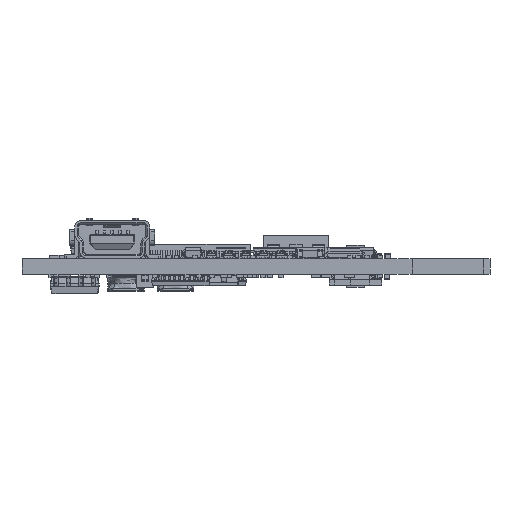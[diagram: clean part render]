
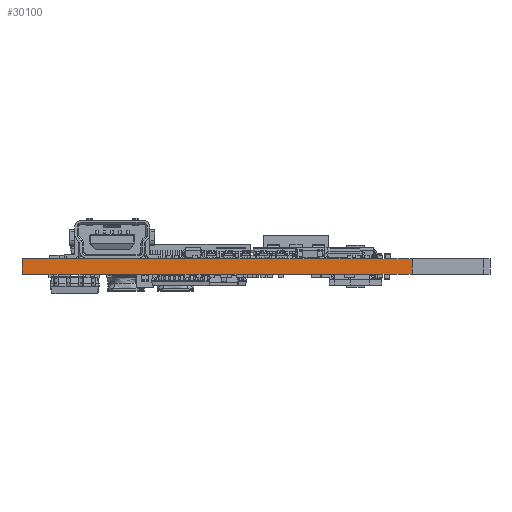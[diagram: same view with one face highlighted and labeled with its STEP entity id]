
A CAD part, left-side view. The second image highlights one B-rep face of the part: STEP entity #30100.
In plain terms, the highlighted planar face has unit normal (-1, 0, 0).
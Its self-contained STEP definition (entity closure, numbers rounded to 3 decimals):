
#7544 = LINE ( 'NONE', #72408, #69951 ) ;
#12661 = LINE ( 'NONE', #171715, #170813 ) ;
#14783 = DIRECTION ( 'NONE',  ( 0., -1., 0. ) ) ;
#15678 = DIRECTION ( 'NONE',  ( -1., 0., 0. ) ) ;
#16280 = DIRECTION ( 'NONE',  ( 0., 0., 1. ) ) ;
#17099 = LINE ( 'NONE', #173588, #41592 ) ;
#21142 = CARTESIAN_POINT ( 'NONE',  ( 0., 48., 0.8 ) ) ;
#25383 = ORIENTED_EDGE ( 'NONE', *, *, #173728, .F. ) ;
#30100 = ADVANCED_FACE ( 'NONE', ( #51219 ), #130863, .T. ) ;
#34679 = EDGE_CURVE ( 'NONE', #114125, #67115, #139008, .T. ) ;
#41592 = VECTOR ( 'NONE', #46458, 1000. ) ;
#46184 = ORIENTED_EDGE ( 'NONE', *, *, #34679, .F. ) ;
#46458 = DIRECTION ( 'NONE',  ( 0., 0., 1. ) ) ;
#50732 = EDGE_CURVE ( 'NONE', #107000, #67115, #7544, .T. ) ;
#51219 = FACE_OUTER_BOUND ( 'NONE', #122139, .T. ) ;
#62206 = ORIENTED_EDGE ( 'NONE', *, *, #50732, .T. ) ;
#67115 = VERTEX_POINT ( 'NONE', #91007 ) ;
#69951 = VECTOR ( 'NONE', #86735, 1000. ) ;
#72408 = CARTESIAN_POINT ( 'NONE',  ( 0., 8., -0.8 ) ) ;
#80985 = AXIS2_PLACEMENT_3D ( 'NONE', #117099, #15678, #16280 ) ;
#86735 = DIRECTION ( 'NONE',  ( 0., 0., 1. ) ) ;
#91007 = CARTESIAN_POINT ( 'NONE',  ( 0., 8., 0.8 ) ) ;
#107000 = VERTEX_POINT ( 'NONE', #169672 ) ;
#108909 = DIRECTION ( 'NONE',  ( 0., -1., 0. ) ) ;
#114125 = VERTEX_POINT ( 'NONE', #21142 ) ;
#117099 = CARTESIAN_POINT ( 'NONE',  ( 0., 0., -0.8 ) ) ;
#122139 = EDGE_LOOP ( 'NONE', ( #62206, #46184, #25383, #156155 ) ) ;
#126771 = VERTEX_POINT ( 'NONE', #172646 ) ;
#130863 = PLANE ( 'NONE',  #80985 ) ;
#132319 = VECTOR ( 'NONE', #108909, 1000. ) ;
#139008 = LINE ( 'NONE', #150747, #132319 ) ;
#150747 = CARTESIAN_POINT ( 'NONE',  ( 0., 0., 0.8 ) ) ;
#156155 = ORIENTED_EDGE ( 'NONE', *, *, #173693, .T. ) ;
#169672 = CARTESIAN_POINT ( 'NONE',  ( 0., 8., -0.8 ) ) ;
#170813 = VECTOR ( 'NONE', #14783, 1000. ) ;
#171715 = CARTESIAN_POINT ( 'NONE',  ( 0., 0., -0.8 ) ) ;
#172646 = CARTESIAN_POINT ( 'NONE',  ( 0., 48., -0.8 ) ) ;
#173588 = CARTESIAN_POINT ( 'NONE',  ( 0., 48., -0.8 ) ) ;
#173693 = EDGE_CURVE ( 'NONE', #126771, #107000, #12661, .T. ) ;
#173728 = EDGE_CURVE ( 'NONE', #126771, #114125, #17099, .T. ) ;
